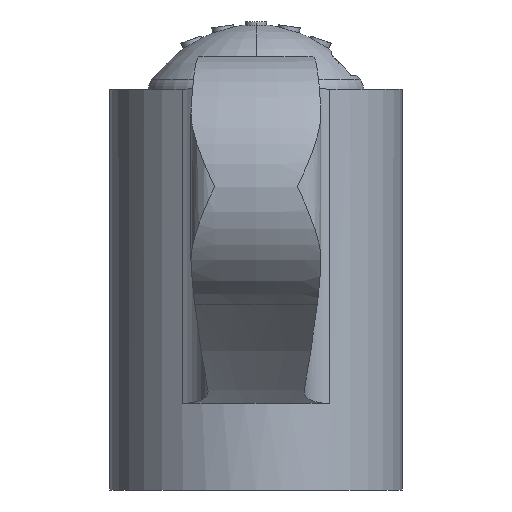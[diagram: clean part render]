
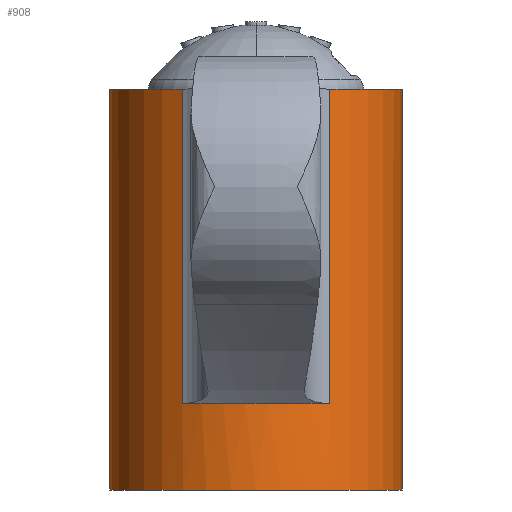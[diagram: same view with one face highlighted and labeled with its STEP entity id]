
A CAD part, left-side view. The second image highlights one B-rep face of the part: STEP entity #908.
In plain terms, the highlighted cylindrical face has radius 6.75 mm (diameter 13.5 mm), a partial arc.
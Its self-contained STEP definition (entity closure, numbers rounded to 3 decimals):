
#23 = CARTESIAN_POINT ( 'NONE',  ( -5.828, -3.405, 40. ) ) ;
#79 = ORIENTED_EDGE ( 'NONE', *, *, #1020, .F. ) ;
#279 = DIRECTION ( 'NONE',  ( 0., 0., 1. ) ) ;
#289 = EDGE_CURVE ( 'NONE', #635, #479, #1389, .T. ) ;
#402 = CARTESIAN_POINT ( 'NONE',  ( 0., -6.75, 0. ) ) ;
#411 = DIRECTION ( 'NONE',  ( 0., 0., -1. ) ) ;
#442 = VECTOR ( 'NONE', #1695, 1000. ) ;
#479 = VERTEX_POINT ( 'NONE', #1544 ) ;
#481 = AXIS2_PLACEMENT_3D ( 'NONE', #888, #2104, #2515 ) ;
#526 = AXIS2_PLACEMENT_3D ( 'NONE', #2493, #2081, #1120 ) ;
#541 = EDGE_CURVE ( 'NONE', #2427, #1908, #2181, .T. ) ;
#602 = CARTESIAN_POINT ( 'NONE',  ( -5.828, 3.405, 40. ) ) ;
#614 = DIRECTION ( 'NONE',  ( 0., 0., 1. ) ) ;
#635 = VERTEX_POINT ( 'NONE', #909 ) ;
#640 = DIRECTION ( 'NONE',  ( 0., 0., 1. ) ) ;
#679 = VECTOR ( 'NONE', #279, 1000. ) ;
#712 = ORIENTED_EDGE ( 'NONE', *, *, #2089, .F. ) ;
#716 = CARTESIAN_POINT ( 'NONE',  ( 0., -6.75, 18.504 ) ) ;
#718 = DIRECTION ( 'NONE',  ( 0., 1., 0. ) ) ;
#724 = VECTOR ( 'NONE', #411, 1000. ) ;
#770 = AXIS2_PLACEMENT_3D ( 'NONE', #2241, #640, #1410 ) ;
#782 = ORIENTED_EDGE ( 'NONE', *, *, #541, .F. ) ;
#844 = CIRCLE ( 'NONE', #1831, 6.75 ) ;
#853 = CARTESIAN_POINT ( 'NONE',  ( -5.828, -3.405, 4. ) ) ;
#888 = CARTESIAN_POINT ( 'NONE',  ( 0., 0., 18.504 ) ) ;
#908 = ADVANCED_FACE ( 'NONE', ( #1849 ), #2232, .T. ) ;
#909 = CARTESIAN_POINT ( 'NONE',  ( 0., 6.75, 0. ) ) ;
#911 = CARTESIAN_POINT ( 'NONE',  ( 0., -6.75, 18. ) ) ;
#966 = CARTESIAN_POINT ( 'NONE',  ( 0., 0., 18.504 ) ) ;
#998 = LINE ( 'NONE', #23, #1833 ) ;
#1008 = DIRECTION ( 'NONE',  ( 0., 0., -1. ) ) ;
#1020 = EDGE_CURVE ( 'NONE', #1908, #2554, #844, .T. ) ;
#1120 = DIRECTION ( 'NONE',  ( 0., 1., 0. ) ) ;
#1125 = ORIENTED_EDGE ( 'NONE', *, *, #1467, .T. ) ;
#1140 = CIRCLE ( 'NONE', #526, 6.75 ) ;
#1228 = CARTESIAN_POINT ( 'NONE',  ( -5.828, 3.405, 18.504 ) ) ;
#1389 = LINE ( 'NONE', #2174, #679 ) ;
#1410 = DIRECTION ( 'NONE',  ( 0., 1., 0. ) ) ;
#1467 = EDGE_CURVE ( 'NONE', #2390, #2554, #998, .T. ) ;
#1507 = CARTESIAN_POINT ( 'NONE',  ( 0., 0., 4. ) ) ;
#1543 = VERTEX_POINT ( 'NONE', #716 ) ;
#1544 = CARTESIAN_POINT ( 'NONE',  ( 0., 6.75, 18.504 ) ) ;
#1576 = DIRECTION ( 'NONE',  ( 0., 1., 0. ) ) ;
#1593 = EDGE_CURVE ( 'NONE', #2390, #1543, #2553, .T. ) ;
#1609 = ORIENTED_EDGE ( 'NONE', *, *, #1593, .F. ) ;
#1663 = CIRCLE ( 'NONE', #1836, 6.75 ) ;
#1695 = DIRECTION ( 'NONE',  ( 0., 0., 1. ) ) ;
#1720 = DIRECTION ( 'NONE',  ( 0., 0., 1. ) ) ;
#1812 = ORIENTED_EDGE ( 'NONE', *, *, #289, .F. ) ;
#1831 = AXIS2_PLACEMENT_3D ( 'NONE', #1507, #1720, #718 ) ;
#1833 = VECTOR ( 'NONE', #1008, 1000. ) ;
#1836 = AXIS2_PLACEMENT_3D ( 'NONE', #966, #614, #1576 ) ;
#1849 = FACE_OUTER_BOUND ( 'NONE', #2244, .T. ) ;
#1908 = VERTEX_POINT ( 'NONE', #1926 ) ;
#1925 = EDGE_CURVE ( 'NONE', #2392, #1543, #2287, .T. ) ;
#1926 = CARTESIAN_POINT ( 'NONE',  ( -5.828, 3.405, 4. ) ) ;
#1988 = EDGE_CURVE ( 'NONE', #635, #2392, #1140, .T. ) ;
#2080 = ORIENTED_EDGE ( 'NONE', *, *, #1988, .T. ) ;
#2081 = DIRECTION ( 'NONE',  ( 0., 0., 1. ) ) ;
#2089 = EDGE_CURVE ( 'NONE', #479, #2427, #1663, .T. ) ;
#2104 = DIRECTION ( 'NONE',  ( 0., 0., 1. ) ) ;
#2174 = CARTESIAN_POINT ( 'NONE',  ( 0., 6.75, 18. ) ) ;
#2181 = LINE ( 'NONE', #602, #724 ) ;
#2232 = CYLINDRICAL_SURFACE ( 'NONE', #770, 6.75 ) ;
#2241 = CARTESIAN_POINT ( 'NONE',  ( 0., 0., 18. ) ) ;
#2244 = EDGE_LOOP ( 'NONE', ( #2080, #2376, #1609, #1125, #79, #782, #712, #1812 ) ) ;
#2287 = LINE ( 'NONE', #911, #442 ) ;
#2376 = ORIENTED_EDGE ( 'NONE', *, *, #1925, .T. ) ;
#2390 = VERTEX_POINT ( 'NONE', #2405 ) ;
#2392 = VERTEX_POINT ( 'NONE', #402 ) ;
#2405 = CARTESIAN_POINT ( 'NONE',  ( -5.828, -3.405, 18.504 ) ) ;
#2427 = VERTEX_POINT ( 'NONE', #1228 ) ;
#2493 = CARTESIAN_POINT ( 'NONE',  ( 0., 0., 0. ) ) ;
#2515 = DIRECTION ( 'NONE',  ( 0., 1., 0. ) ) ;
#2553 = CIRCLE ( 'NONE', #481, 6.75 ) ;
#2554 = VERTEX_POINT ( 'NONE', #853 ) ;
